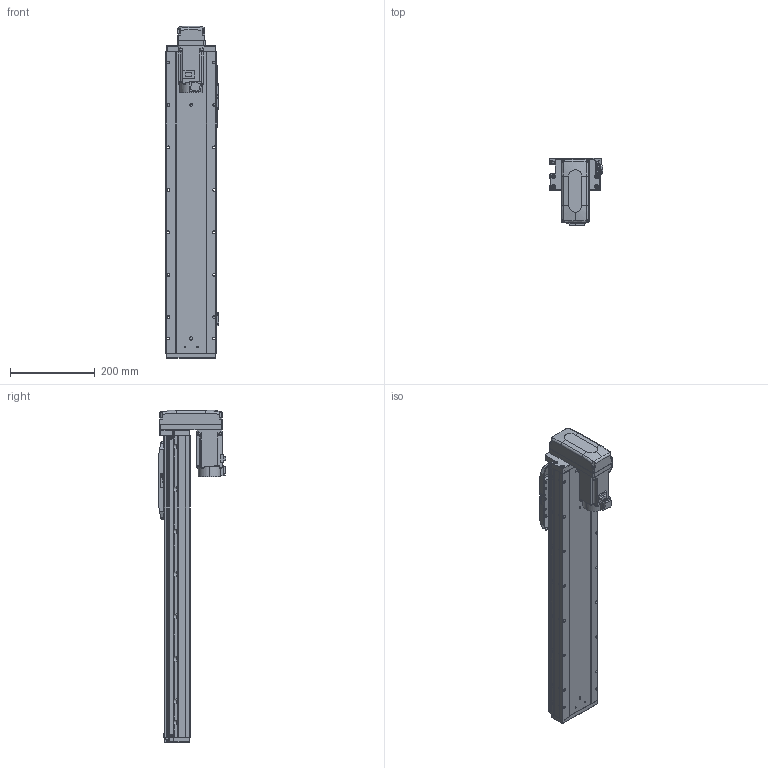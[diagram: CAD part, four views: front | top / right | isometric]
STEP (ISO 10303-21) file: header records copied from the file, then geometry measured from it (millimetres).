
FILE_DESCRIPTION (( 'STEP AP203' ), '1' );
FILE_NAME ('GTH12-500-BM-M40-C4.step', '2022-09-29T02:01:40', ( '微软用户' ), ( '微软中国' ), 'SwSTEP 2.0', 'SolidWorks 2020', '' );
FILE_SCHEMA (( 'CONFIG_CONTROL_DESIGN' ));
Length unit declared in the file: millimetre
Products named in the file (18): CTHA86-033_M40B; GTH120-006; GTH80-028; GTH120-027-1_GTH120-027-2; GTH120-004; GTH50-023; GTH12-500-BM-M40-C4; GTH120-013; GTH50-024; GBT 70.1-M3℅6; GBT96.1-2002 3×0.8; GBT 70.1-M5×16; BTH-M3X5X6; GTH120-001_500; GBT 70.3-M3℅8; hg-kn43j_-s100_; GTH120-003; GTH80-022
Assembly tree (59 placements, depth 2):
  GTH12-500-BM-M40-C4
    GTH120-001_500
    GTH120-003
    GTH120-006
    GTH120-004
    GTH120-013
    GBT 70.1-M3℅6  x14
    GBT 70.1-M5×16  x10
    GBT 70.3-M3℅8  x4
    GTH80-022
    GTH80-028  x2
    GTH50-023  x3
    GTH50-024  x3
    GBT96.1-2002 3×0.8  x6
    BTH-M3X5X6  x8
    hg-kn43j_-s100_
    CTHA86-033_M40B
    GTH120-027-1_GTH120-027-2
Bounding box: 125.7 x 159.8 x 782 mm (x, y, z)
Volume: 5883355 mm3; surface area: 566436.5 mm2
Topology: 61 solids, 61 shells, 2428 faces, 5655 edges, 3469 vertices
Faces by surface type: plane 1254, cylinder 698, cone 288, torus 174, sphere 8, bspline 6
Entity records: 45141 total; most frequent: CARTESIAN_POINT 7682, DIRECTION 7455, ORIENTED_EDGE 6920, EDGE_CURVE 3460, AXIS2_PLACEMENT_3D 2607, LINE 2241, VECTOR 2241, VERTEX_POINT 2190
